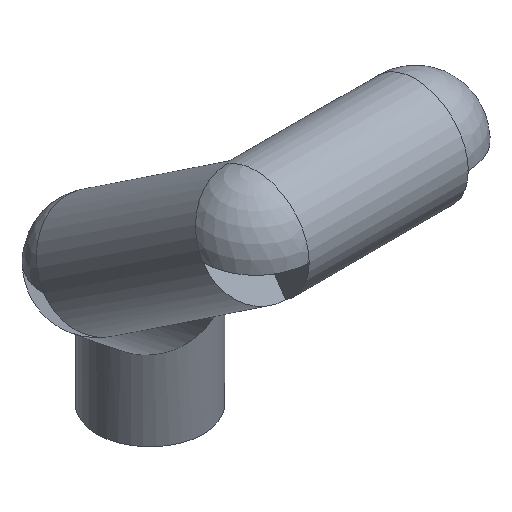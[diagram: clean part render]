
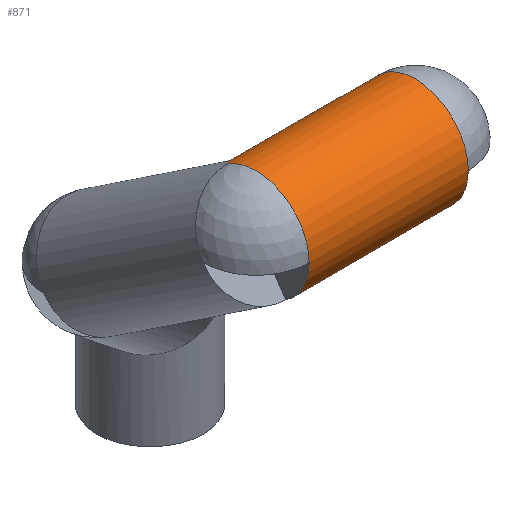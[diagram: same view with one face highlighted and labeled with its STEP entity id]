
A CAD part, isometric view. The second image highlights one B-rep face of the part: STEP entity #871.
In plain terms, the highlighted cylindrical face has radius 0.5 mm (diameter 1 mm), a full revolution.
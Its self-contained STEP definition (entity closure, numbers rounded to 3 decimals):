
#326 = CYLINDRICAL_SURFACE('',#327,0.5);
#327 = AXIS2_PLACEMENT_3D('',#328,#329,#330);
#328 = CARTESIAN_POINT('',(-5.5,63.,24.));
#329 = DIRECTION('',(0.,-0.832,0.555));
#330 = DIRECTION('',(0.,-0.555,-0.832));
#459 = VERTEX_POINT('',#460);
#460 = CARTESIAN_POINT('',(-5.5,61.223,24.584));
#511 = VERTEX_POINT('',#512);
#512 = CARTESIAN_POINT('',(-5.5,61.777,25.416));
#527 = SPHERICAL_SURFACE('',#528,0.5);
#528 = AXIS2_PLACEMENT_3D('',#529,#530,#531);
#529 = CARTESIAN_POINT('',(-5.5,61.5,25.));
#530 = DIRECTION('',(0.,0.,1.));
#531 = DIRECTION('',(1.,0.,-0.));
#573 = EDGE_CURVE('',#459,#511,#574,.T.);
#574 = SURFACE_CURVE('',#575,(#580,#593),.PCURVE_S1.);
#575 = ELLIPSE('',#576,0.707,0.5);
#576 = AXIS2_PLACEMENT_3D('',#577,#578,#579);
#577 = CARTESIAN_POINT('',(-5.5,61.5,25.));
#578 = DIRECTION('',(0.707,-0.588,0.392));
#579 = DIRECTION('',(-0.707,-0.588,0.392));
#580 = PCURVE('',#326,#581);
#581 = DEFINITIONAL_REPRESENTATION('',(#582),#592);
#582 = B_SPLINE_CURVE_WITH_KNOTS('',8,(#583,#584,#585,#586,#587,#588,
    #589,#590,#591),.UNSPECIFIED.,.F.,.F.,(9,9),(1.571,
    4.712),.PIECEWISE_BEZIER_KNOTS.);
#583 = CARTESIAN_POINT('',(0.,1.803));
#584 = CARTESIAN_POINT('',(0.393,1.606));
#585 = CARTESIAN_POINT('',(0.785,1.41));
#586 = CARTESIAN_POINT('',(1.178,1.26));
#587 = CARTESIAN_POINT('',(1.571,1.202));
#588 = CARTESIAN_POINT('',(1.963,1.26));
#589 = CARTESIAN_POINT('',(2.356,1.41));
#590 = CARTESIAN_POINT('',(2.749,1.606));
#591 = CARTESIAN_POINT('',(3.142,1.803));
#592 = ( GEOMETRIC_REPRESENTATION_CONTEXT(2) 
PARAMETRIC_REPRESENTATION_CONTEXT() REPRESENTATION_CONTEXT('2D SPACE',''
  ) );
#593 = PCURVE('',#594,#599);
#594 = CYLINDRICAL_SURFACE('',#595,0.5);
#595 = AXIS2_PLACEMENT_3D('',#596,#597,#598);
#596 = CARTESIAN_POINT('',(-5.5,61.5,25.));
#597 = DIRECTION('',(1.,0.,0.));
#598 = DIRECTION('',(-0.,0.,1.));
#599 = DEFINITIONAL_REPRESENTATION('',(#600),#610);
#600 = B_SPLINE_CURVE_WITH_KNOTS('',8,(#601,#602,#603,#604,#605,#606,
    #607,#608,#609),.UNSPECIFIED.,.F.,.F.,(9,9),(1.571,
    4.712),.PIECEWISE_BEZIER_KNOTS.);
#601 = CARTESIAN_POINT('',(2.554,0.));
#602 = CARTESIAN_POINT('',(2.946,0.196));
#603 = CARTESIAN_POINT('',(3.339,0.393));
#604 = CARTESIAN_POINT('',(3.732,0.543));
#605 = CARTESIAN_POINT('',(4.124,0.601));
#606 = CARTESIAN_POINT('',(4.517,0.543));
#607 = CARTESIAN_POINT('',(4.91,0.393));
#608 = CARTESIAN_POINT('',(5.302,0.196));
#609 = CARTESIAN_POINT('',(5.695,0.));
#610 = ( GEOMETRIC_REPRESENTATION_CONTEXT(2) 
PARAMETRIC_REPRESENTATION_CONTEXT() REPRESENTATION_CONTEXT('2D SPACE',''
  ) );
#735 = PLANE('',#736);
#736 = AXIS2_PLACEMENT_3D('',#737,#738,#739);
#737 = CARTESIAN_POINT('',(-5.5,61.5,25.));
#738 = DIRECTION('',(1.,0.,0.));
#739 = DIRECTION('',(-0.,0.,1.));
#751 = VERTEX_POINT('',#752);
#752 = CARTESIAN_POINT('',(-5.5,61.,25.));
#772 = EDGE_CURVE('',#751,#459,#773,.T.);
#773 = SURFACE_CURVE('',#774,(#779,#786),.PCURVE_S1.);
#774 = CIRCLE('',#775,0.5);
#775 = AXIS2_PLACEMENT_3D('',#776,#777,#778);
#776 = CARTESIAN_POINT('',(-5.5,61.5,25.));
#777 = DIRECTION('',(1.,0.,0.));
#778 = DIRECTION('',(-0.,0.,1.));
#779 = PCURVE('',#735,#780);
#780 = DEFINITIONAL_REPRESENTATION('',(#781),#785);
#781 = CIRCLE('',#782,0.5);
#782 = AXIS2_PLACEMENT_2D('',#783,#784);
#783 = CARTESIAN_POINT('',(0.,0.));
#784 = DIRECTION('',(1.,0.));
#785 = ( GEOMETRIC_REPRESENTATION_CONTEXT(2) 
PARAMETRIC_REPRESENTATION_CONTEXT() REPRESENTATION_CONTEXT('2D SPACE',''
  ) );
#786 = PCURVE('',#594,#787);
#787 = DEFINITIONAL_REPRESENTATION('',(#788),#792);
#788 = LINE('',#789,#790);
#789 = CARTESIAN_POINT('',(0.,0.));
#790 = VECTOR('',#791,1.);
#791 = DIRECTION('',(1.,0.));
#792 = ( GEOMETRIC_REPRESENTATION_CONTEXT(2) 
PARAMETRIC_REPRESENTATION_CONTEXT() REPRESENTATION_CONTEXT('2D SPACE',''
  ) );
#824 = EDGE_CURVE('',#825,#751,#827,.T.);
#825 = VERTEX_POINT('',#826);
#826 = CARTESIAN_POINT('',(-5.5,61.5,25.5));
#827 = SURFACE_CURVE('',#828,(#833,#840),.PCURVE_S1.);
#828 = CIRCLE('',#829,0.5);
#829 = AXIS2_PLACEMENT_3D('',#830,#831,#832);
#830 = CARTESIAN_POINT('',(-5.5,61.5,25.));
#831 = DIRECTION('',(1.,0.,0.));
#832 = DIRECTION('',(-0.,0.,1.));
#833 = PCURVE('',#527,#834);
#834 = DEFINITIONAL_REPRESENTATION('',(#835),#839);
#835 = LINE('',#836,#837);
#836 = CARTESIAN_POINT('',(4.712,1.571));
#837 = VECTOR('',#838,1.);
#838 = DIRECTION('',(0.,-1.));
#839 = ( GEOMETRIC_REPRESENTATION_CONTEXT(2) 
PARAMETRIC_REPRESENTATION_CONTEXT() REPRESENTATION_CONTEXT('2D SPACE',''
  ) );
#840 = PCURVE('',#594,#841);
#841 = DEFINITIONAL_REPRESENTATION('',(#842),#846);
#842 = LINE('',#843,#844);
#843 = CARTESIAN_POINT('',(0.,0.));
#844 = VECTOR('',#845,1.);
#845 = DIRECTION('',(1.,0.));
#846 = ( GEOMETRIC_REPRESENTATION_CONTEXT(2) 
PARAMETRIC_REPRESENTATION_CONTEXT() REPRESENTATION_CONTEXT('2D SPACE',''
  ) );
#848 = EDGE_CURVE('',#511,#825,#849,.T.);
#849 = SURFACE_CURVE('',#850,(#855,#862),.PCURVE_S1.);
#850 = CIRCLE('',#851,0.5);
#851 = AXIS2_PLACEMENT_3D('',#852,#853,#854);
#852 = CARTESIAN_POINT('',(-5.5,61.5,25.));
#853 = DIRECTION('',(1.,0.,0.));
#854 = DIRECTION('',(-0.,0.,1.));
#855 = PCURVE('',#527,#856);
#856 = DEFINITIONAL_REPRESENTATION('',(#857),#861);
#857 = LINE('',#858,#859);
#858 = CARTESIAN_POINT('',(1.571,-4.712));
#859 = VECTOR('',#860,1.);
#860 = DIRECTION('',(-0.,1.));
#861 = ( GEOMETRIC_REPRESENTATION_CONTEXT(2) 
PARAMETRIC_REPRESENTATION_CONTEXT() REPRESENTATION_CONTEXT('2D SPACE',''
  ) );
#862 = PCURVE('',#594,#863);
#863 = DEFINITIONAL_REPRESENTATION('',(#864),#868);
#864 = LINE('',#865,#866);
#865 = CARTESIAN_POINT('',(0.,0.));
#866 = VECTOR('',#867,1.);
#867 = DIRECTION('',(1.,0.));
#868 = ( GEOMETRIC_REPRESENTATION_CONTEXT(2) 
PARAMETRIC_REPRESENTATION_CONTEXT() REPRESENTATION_CONTEXT('2D SPACE',''
  ) );
#871 = ADVANCED_FACE('',(#872),#594,.T.);
#872 = FACE_BOUND('',#873,.T.);
#873 = EDGE_LOOP('',(#874,#875,#876,#899,#927,#956,#977,#978,#979));
#874 = ORIENTED_EDGE('',*,*,#573,.T.);
#875 = ORIENTED_EDGE('',*,*,#848,.T.);
#876 = ORIENTED_EDGE('',*,*,#877,.T.);
#877 = EDGE_CURVE('',#825,#878,#880,.T.);
#878 = VERTEX_POINT('',#879);
#879 = CARTESIAN_POINT('',(-4.,61.5,25.5));
#880 = SEAM_CURVE('',#881,(#885,#892),.PCURVE_S1.);
#881 = LINE('',#882,#883);
#882 = CARTESIAN_POINT('',(-5.5,61.5,25.5));
#883 = VECTOR('',#884,1.);
#884 = DIRECTION('',(1.,0.,0.));
#885 = PCURVE('',#594,#886);
#886 = DEFINITIONAL_REPRESENTATION('',(#887),#891);
#887 = LINE('',#888,#889);
#888 = CARTESIAN_POINT('',(0.,-0.));
#889 = VECTOR('',#890,1.);
#890 = DIRECTION('',(0.,1.));
#891 = ( GEOMETRIC_REPRESENTATION_CONTEXT(2) 
PARAMETRIC_REPRESENTATION_CONTEXT() REPRESENTATION_CONTEXT('2D SPACE',''
  ) );
#892 = PCURVE('',#594,#893);
#893 = DEFINITIONAL_REPRESENTATION('',(#894),#898);
#894 = LINE('',#895,#896);
#895 = CARTESIAN_POINT('',(6.283,-0.));
#896 = VECTOR('',#897,1.);
#897 = DIRECTION('',(0.,1.));
#898 = ( GEOMETRIC_REPRESENTATION_CONTEXT(2) 
PARAMETRIC_REPRESENTATION_CONTEXT() REPRESENTATION_CONTEXT('2D SPACE',''
  ) );
#899 = ORIENTED_EDGE('',*,*,#900,.F.);
#900 = EDGE_CURVE('',#901,#878,#903,.T.);
#901 = VERTEX_POINT('',#902);
#902 = CARTESIAN_POINT('',(-4.,62.,25.));
#903 = SURFACE_CURVE('',#904,(#909,#916),.PCURVE_S1.);
#904 = CIRCLE('',#905,0.5);
#905 = AXIS2_PLACEMENT_3D('',#906,#907,#908);
#906 = CARTESIAN_POINT('',(-4.,61.5,25.));
#907 = DIRECTION('',(1.,0.,0.));
#908 = DIRECTION('',(-0.,0.,1.));
#909 = PCURVE('',#594,#910);
#910 = DEFINITIONAL_REPRESENTATION('',(#911),#915);
#911 = LINE('',#912,#913);
#912 = CARTESIAN_POINT('',(0.,1.5));
#913 = VECTOR('',#914,1.);
#914 = DIRECTION('',(1.,0.));
#915 = ( GEOMETRIC_REPRESENTATION_CONTEXT(2) 
PARAMETRIC_REPRESENTATION_CONTEXT() REPRESENTATION_CONTEXT('2D SPACE',''
  ) );
#916 = PCURVE('',#917,#922);
#917 = SPHERICAL_SURFACE('',#918,0.5);
#918 = AXIS2_PLACEMENT_3D('',#919,#920,#921);
#919 = CARTESIAN_POINT('',(-4.,61.5,25.));
#920 = DIRECTION('',(0.,0.,1.));
#921 = DIRECTION('',(1.,0.,-0.));
#922 = DEFINITIONAL_REPRESENTATION('',(#923),#926);
#923 = B_SPLINE_CURVE_WITH_KNOTS('',1,(#924,#925),.UNSPECIFIED.,.F.,.F.,
  (2,2),(4.712,6.283),.PIECEWISE_BEZIER_KNOTS.);
#924 = CARTESIAN_POINT('',(7.854,0.));
#925 = CARTESIAN_POINT('',(7.854,1.571));
#926 = ( GEOMETRIC_REPRESENTATION_CONTEXT(2) 
PARAMETRIC_REPRESENTATION_CONTEXT() REPRESENTATION_CONTEXT('2D SPACE',''
  ) );
#927 = ORIENTED_EDGE('',*,*,#928,.F.);
#928 = EDGE_CURVE('',#929,#901,#931,.T.);
#929 = VERTEX_POINT('',#930);
#930 = CARTESIAN_POINT('',(-4.,61.,25.));
#931 = SURFACE_CURVE('',#932,(#937,#944),.PCURVE_S1.);
#932 = CIRCLE('',#933,0.5);
#933 = AXIS2_PLACEMENT_3D('',#934,#935,#936);
#934 = CARTESIAN_POINT('',(-4.,61.5,25.));
#935 = DIRECTION('',(1.,0.,0.));
#936 = DIRECTION('',(-0.,0.,1.));
#937 = PCURVE('',#594,#938);
#938 = DEFINITIONAL_REPRESENTATION('',(#939),#943);
#939 = LINE('',#940,#941);
#940 = CARTESIAN_POINT('',(0.,1.5));
#941 = VECTOR('',#942,1.);
#942 = DIRECTION('',(1.,0.));
#943 = ( GEOMETRIC_REPRESENTATION_CONTEXT(2) 
PARAMETRIC_REPRESENTATION_CONTEXT() REPRESENTATION_CONTEXT('2D SPACE',''
  ) );
#944 = PCURVE('',#945,#950);
#945 = PLANE('',#946);
#946 = AXIS2_PLACEMENT_3D('',#947,#948,#949);
#947 = CARTESIAN_POINT('',(-4.,61.5,25.));
#948 = DIRECTION('',(1.,0.,0.));
#949 = DIRECTION('',(-0.,0.,1.));
#950 = DEFINITIONAL_REPRESENTATION('',(#951),#955);
#951 = CIRCLE('',#952,0.5);
#952 = AXIS2_PLACEMENT_2D('',#953,#954);
#953 = CARTESIAN_POINT('',(0.,0.));
#954 = DIRECTION('',(1.,0.));
#955 = ( GEOMETRIC_REPRESENTATION_CONTEXT(2) 
PARAMETRIC_REPRESENTATION_CONTEXT() REPRESENTATION_CONTEXT('2D SPACE',''
  ) );
#956 = ORIENTED_EDGE('',*,*,#957,.F.);
#957 = EDGE_CURVE('',#878,#929,#958,.T.);
#958 = SURFACE_CURVE('',#959,(#964,#971),.PCURVE_S1.);
#959 = CIRCLE('',#960,0.5);
#960 = AXIS2_PLACEMENT_3D('',#961,#962,#963);
#961 = CARTESIAN_POINT('',(-4.,61.5,25.));
#962 = DIRECTION('',(1.,0.,0.));
#963 = DIRECTION('',(-0.,0.,1.));
#964 = PCURVE('',#594,#965);
#965 = DEFINITIONAL_REPRESENTATION('',(#966),#970);
#966 = LINE('',#967,#968);
#967 = CARTESIAN_POINT('',(0.,1.5));
#968 = VECTOR('',#969,1.);
#969 = DIRECTION('',(1.,0.));
#970 = ( GEOMETRIC_REPRESENTATION_CONTEXT(2) 
PARAMETRIC_REPRESENTATION_CONTEXT() REPRESENTATION_CONTEXT('2D SPACE',''
  ) );
#971 = PCURVE('',#917,#972);
#972 = DEFINITIONAL_REPRESENTATION('',(#973),#976);
#973 = B_SPLINE_CURVE_WITH_KNOTS('',1,(#974,#975),.UNSPECIFIED.,.F.,.F.,
  (2,2),(0.,1.571),.PIECEWISE_BEZIER_KNOTS.);
#974 = CARTESIAN_POINT('',(4.712,1.571));
#975 = CARTESIAN_POINT('',(4.712,0.));
#976 = ( GEOMETRIC_REPRESENTATION_CONTEXT(2) 
PARAMETRIC_REPRESENTATION_CONTEXT() REPRESENTATION_CONTEXT('2D SPACE',''
  ) );
#977 = ORIENTED_EDGE('',*,*,#877,.F.);
#978 = ORIENTED_EDGE('',*,*,#824,.T.);
#979 = ORIENTED_EDGE('',*,*,#772,.T.);
